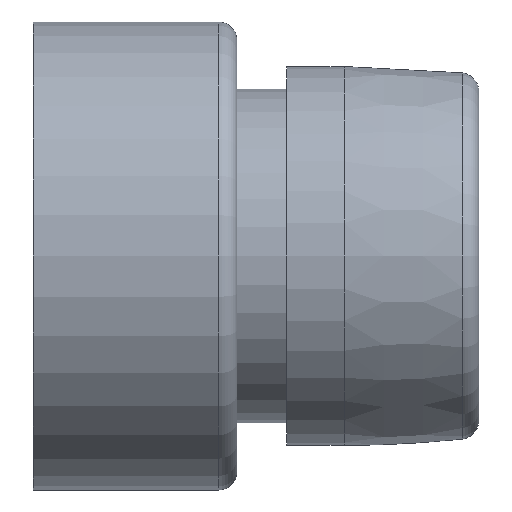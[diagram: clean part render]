
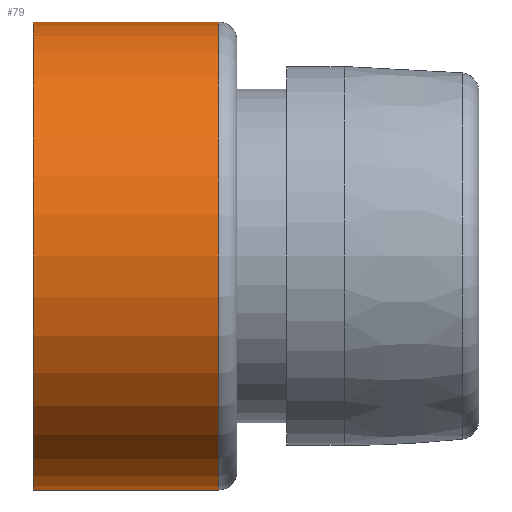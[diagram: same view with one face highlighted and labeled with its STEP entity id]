
A CAD part, front view. The second image highlights one B-rep face of the part: STEP entity #79.
In plain terms, the highlighted cylindrical face has radius 39.37 mm (diameter 78.74 mm), a full revolution.
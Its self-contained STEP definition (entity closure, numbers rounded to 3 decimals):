
#50=CYLINDRICAL_SURFACE('',#316,39.37);
#79=ADVANCED_FACE('',(#116,#117),#50,.T.);
#116=FACE_BOUND('',#160,.T.);
#117=FACE_BOUND('',#161,.T.);
#160=EDGE_LOOP('',(#204));
#161=EDGE_LOOP('',(#205));
#204=ORIENTED_EDGE('',*,*,#257,.F.);
#205=ORIENTED_EDGE('',*,*,#258,.T.);
#235=VERTEX_POINT('',#493);
#236=VERTEX_POINT('',#496);
#257=EDGE_CURVE('',#235,#235,#279,.T.);
#258=EDGE_CURVE('',#236,#236,#280,.T.);
#279=CIRCLE('',#313,39.37);
#280=CIRCLE('',#315,39.37);
#313=AXIS2_PLACEMENT_3D('',#492,#384,#385);
#315=AXIS2_PLACEMENT_3D('',#495,#388,#389);
#316=AXIS2_PLACEMENT_3D('',#497,#390,#391);
#384=DIRECTION('',(-1.,0.,0.));
#385=DIRECTION('',(0.,0.,1.));
#388=DIRECTION('',(-1.,0.,0.));
#389=DIRECTION('',(0.,0.,1.));
#390=DIRECTION('',(-1.,0.,0.));
#391=DIRECTION('',(0.,0.,1.));
#492=CARTESIAN_POINT('',(-87.723,0.,0.));
#493=CARTESIAN_POINT('',(-87.723,0.,39.37));
#495=CARTESIAN_POINT('',(-56.481,0.,0.));
#496=CARTESIAN_POINT('',(-56.481,0.,39.37));
#497=CARTESIAN_POINT('',(0.,0.,0.));
